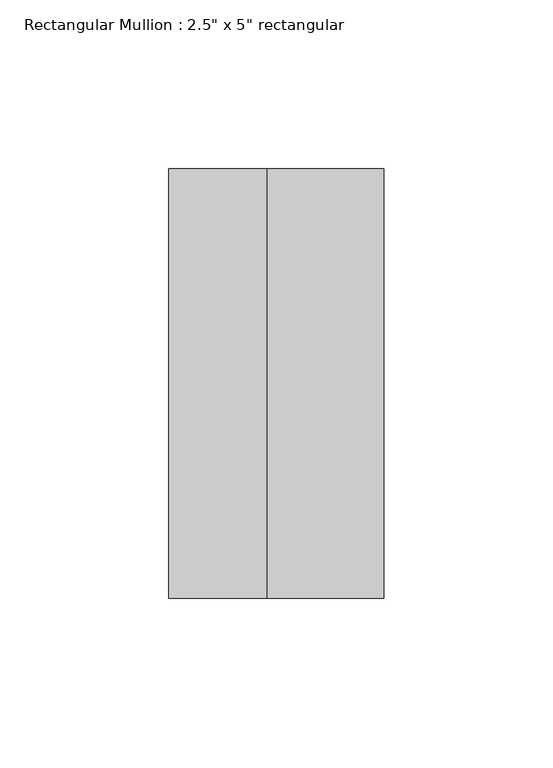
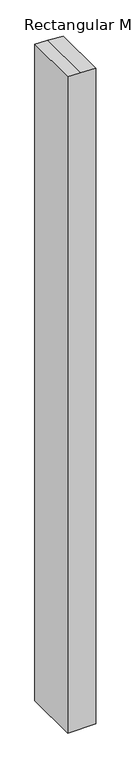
"""IFC4 building model written with IfcOpenShell, lengths in millimetres: member geometry."""

from ifc_helpers import new_model, si_unit, frame, origin, place, context, project, spatial, polyline, outline, extrude, source, transform, mapped, element, save


def member_a00ec9cd(model_context):
    return source(origin(), model_context, "Body", "SweptSolid", [
        extrude(outline(polyline([(-64.8775557, 31.75), (-63.4449853, -2.6426951), (-62.232569, -31.75), (-1619.8278232, -31.75), (-1619.8278232, 31.75), (-64.8775557, 31.75)])), frame((0.0, -63.5, 0.0), z_axis=(0.0, 1.0, 0.0), x_axis=(0.0, 0.0, 1.0)), (0.0, 0.0, 1.0), 127.0),
    ])


if __name__ == "__main__":
    model = new_model("IFC4")
    model_context = context("Model", 3, world=origin())
    ifc_project = project(units=[si_unit("LENGTHUNIT", "METRE", prefix="MILLI")], contexts=[model_context])
    site = spatial("IfcSite", under=ifc_project)
    building = spatial("IfcBuilding", under=site)
    placement = place(None, origin())
    member_shape = member_a00ec9cd(model_context)
    element("IfcMember", 1, ObjectType="Rectangular Mullion : 2.5\" x 5\" rectangular", at=placement, inside=building, context=model_context, shape_type="MappedRepresentation", body=[
        mapped(member_shape, transform((0.0, 0.0, 0.0), x_axis=(1.0, 0.0, 0.0), y_axis=(0.0, 1.0, 0.0), z_axis=(0.0, 0.0, 1.0))),
    ])
    save(model, "model.ifc")
